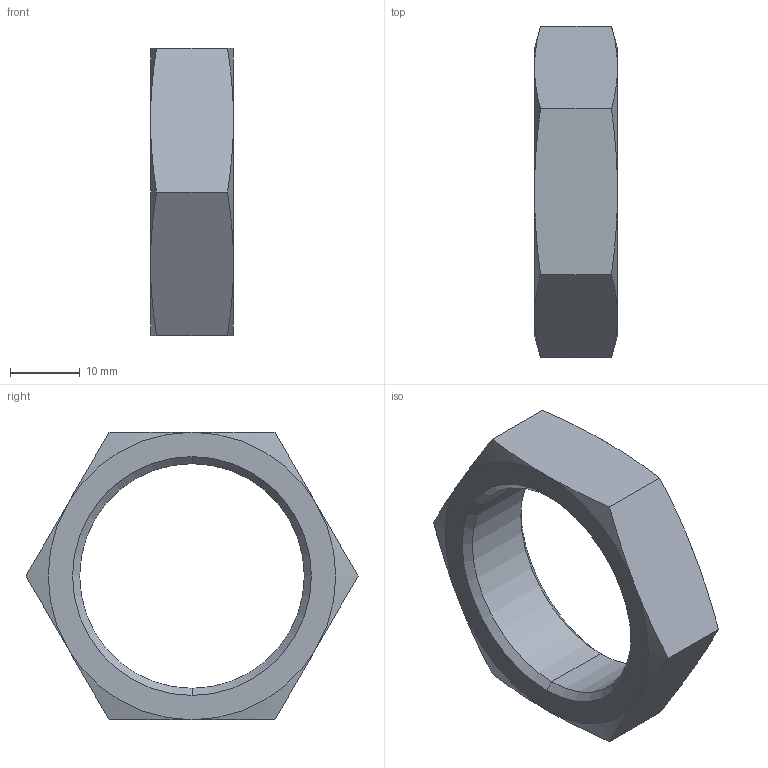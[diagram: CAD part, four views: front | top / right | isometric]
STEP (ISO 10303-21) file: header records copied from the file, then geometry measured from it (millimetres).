
FILE_DESCRIPTION (( 'STEP AP203' ), '1' );
FILE_NAME ('DNN16 SS.STEP', '2009-09-08T08:22:56', ( ' ' ), ( '' ), 'SwSTEP 2.0', 'SolidWorks 2008', '' );
FILE_SCHEMA (( 'CONFIG_CONTROL_DESIGN' ));
Length unit declared in the file: millimetre
Products named in the file (1): DNN16 SS
Bounding box: 11.9 x 47.67 x 41.28 mm (x, y, z)
Volume: 7656.9 mm3; surface area: 4031.8 mm2
Topology: 1 solids, 1 shells, 26 faces, 56 edges, 32 vertices
Faces by surface type: cone 16, plane 8, cylinder 2
Entity records: 845 total; most frequent: CARTESIAN_POINT 235, ORIENTED_EDGE 112, DIRECTION 106, EDGE_CURVE 56, AXIS2_PLACEMENT_3D 47, VERTEX_POINT 32, EDGE_LOOP 28, FACE_OUTER_BOUND 26
